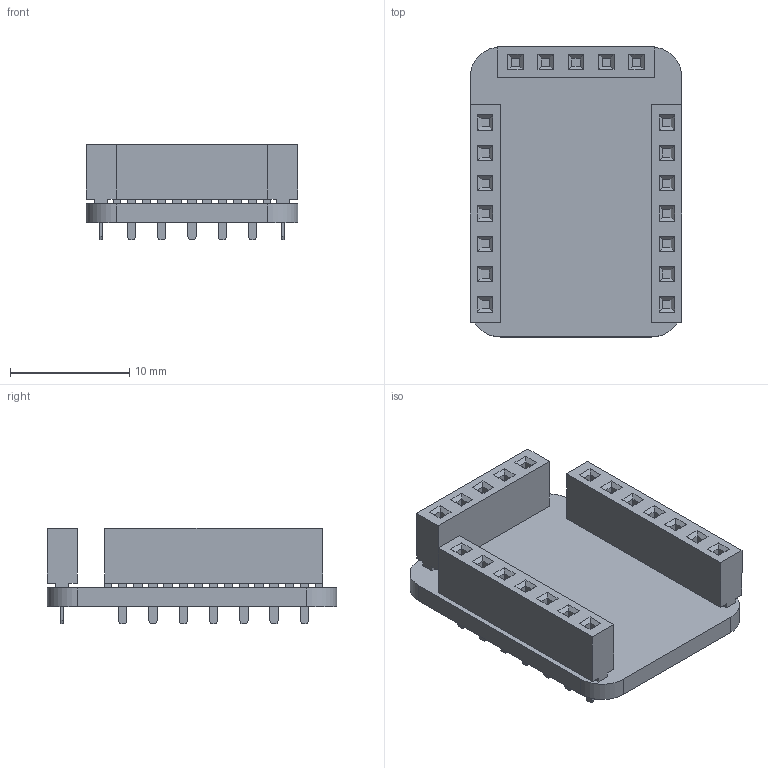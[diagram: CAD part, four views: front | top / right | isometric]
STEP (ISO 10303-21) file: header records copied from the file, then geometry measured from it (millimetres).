
FILE_DESCRIPTION (( 'STEP AP214' ), '1' );
FILE_NAME ('899-002.STEP', '2026-08-14T21:05:43', ( '' ), ( '' ), 'SwSTEP 2.0', 'SolidWorks 2020', '' );
FILE_SCHEMA (( 'AUTOMOTIVE_DESIGN' ));
Length unit declared in the file: millimetre
Products named in the file (10): 899-002; pin^BG095-xxxx gold ass.STEP; BG095-xxxx body_05.STEP; BG095-07_A_N_D corrected; DGS4XX_QTA board; DGS4XX_QTA; BG095-05-A-N-D.STEP; pin; BG095-07-A-N-D
Assembly tree (15 placements, depth 4):
  899-002
    DGS4XX_QTA
      DGS4XX_QTA board
      BG095-05-A-N-D.STEP
        BG095-xxxx body_05.STEP
        pin^BG095-xxxx gold ass.STEP  x4
      BG095-07_A_N_D corrected
        BG095-07-A-N-D
        pin
      BG095-07_A_N_D corrected
        BG095-07-A-N-D
        pin
      pin
Bounding box: 17.78 x 24.32 x 8 mm (x, y, z)
Volume: 1227 mm3; surface area: 2125.5 mm2
Topology: 23 solids, 23 shells, 474 faces, 1103 edges, 710 vertices
Faces by surface type: plane 451, cylinder 23
Full cylindrical faces by diameter (mm): 0.7 x14, 0.889 x5
Entity records: 10035 total; most frequent: CARTESIAN_POINT 1361, DIRECTION 1286, ORIENTED_EDGE 1276, EDGE_CURVE 638, LINE 592, VECTOR 592, VERTEX_POINT 422, EDGE_LOOP 358
